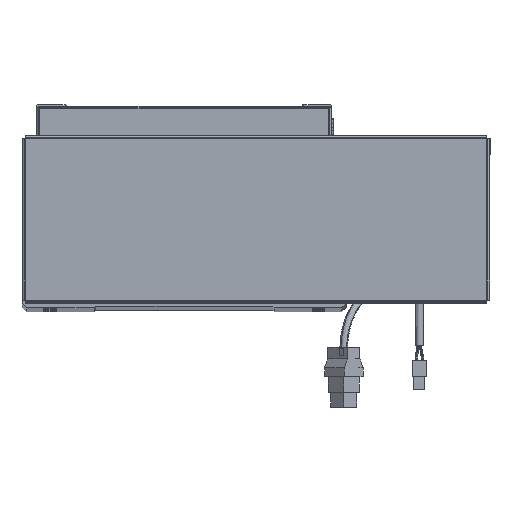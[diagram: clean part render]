
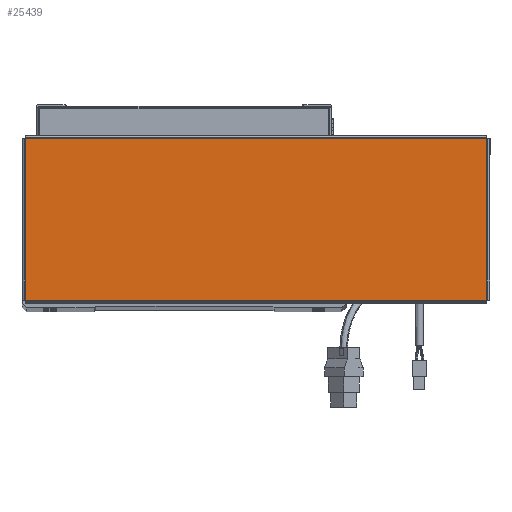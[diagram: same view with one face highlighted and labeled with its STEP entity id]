
A CAD part, top view. The second image highlights one B-rep face of the part: STEP entity #25439.
In plain terms, the highlighted planar face has unit normal (0, 0, 1).
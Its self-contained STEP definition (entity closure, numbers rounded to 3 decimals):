
#1410 = PLANE ( 'NONE',  #4073 ) ;
#2283 = VECTOR ( 'NONE', #10530, 1000. ) ;
#2304 = DIRECTION ( 'NONE',  ( 1., 0., 0. ) ) ;
#3856 = VERTEX_POINT ( 'NONE', #47092 ) ;
#4073 = AXIS2_PLACEMENT_3D ( 'NONE', #17397, #28608, #2304 ) ;
#4185 = CARTESIAN_POINT ( 'NONE',  ( 156.513, 54.763, 0. ) ) ;
#7198 = EDGE_CURVE ( 'NONE', #3856, #60975, #19256, .T. ) ;
#10291 = CARTESIAN_POINT ( 'NONE',  ( -156.513, 54.763, 0. ) ) ;
#10530 = DIRECTION ( 'NONE',  ( 0., 1., 0. ) ) ;
#10816 = CARTESIAN_POINT ( 'NONE',  ( -156.543, -54.763, 0. ) ) ;
#14713 = LINE ( 'NONE', #47503, #2283 ) ;
#17397 = CARTESIAN_POINT ( 'NONE',  ( 0., 0., 0. ) ) ;
#18936 = EDGE_CURVE ( 'NONE', #60975, #50657, #14713, .T. ) ;
#19256 = LINE ( 'NONE', #10816, #37374 ) ;
#19421 = EDGE_LOOP ( 'NONE', ( #52116, #37744, #53363, #64817 ) ) ;
#21043 = DIRECTION ( 'NONE',  ( -1., 0., 0. ) ) ;
#25439 = ADVANCED_FACE ( 'NONE', ( #44339 ), #1410, .T. ) ;
#27402 = VECTOR ( 'NONE', #21043, 1000. ) ;
#28608 = DIRECTION ( 'NONE',  ( 0., 0., 1. ) ) ;
#29170 = CARTESIAN_POINT ( 'NONE',  ( 156.513, -54.763, 0. ) ) ;
#31566 = DIRECTION ( 'NONE',  ( 1., 0., 0. ) ) ;
#37374 = VECTOR ( 'NONE', #31566, 1000. ) ;
#37744 = ORIENTED_EDGE ( 'NONE', *, *, #18936, .T. ) ;
#38150 = LINE ( 'NONE', #52745, #27402 ) ;
#44336 = CARTESIAN_POINT ( 'NONE',  ( -156.513, 54.793, 0. ) ) ;
#44339 = FACE_OUTER_BOUND ( 'NONE', #19421, .T. ) ;
#47092 = CARTESIAN_POINT ( 'NONE',  ( -156.513, -54.763, 0. ) ) ;
#47503 = CARTESIAN_POINT ( 'NONE',  ( 156.513, -54.793, 0. ) ) ;
#50657 = VERTEX_POINT ( 'NONE', #4185 ) ;
#52116 = ORIENTED_EDGE ( 'NONE', *, *, #7198, .T. ) ;
#52745 = CARTESIAN_POINT ( 'NONE',  ( 156.543, 54.763, 0. ) ) ;
#53075 = VERTEX_POINT ( 'NONE', #10291 ) ;
#53113 = LINE ( 'NONE', #44336, #53922 ) ;
#53363 = ORIENTED_EDGE ( 'NONE', *, *, #60156, .T. ) ;
#53922 = VECTOR ( 'NONE', #60781, 1000. ) ;
#60156 = EDGE_CURVE ( 'NONE', #50657, #53075, #38150, .T. ) ;
#60781 = DIRECTION ( 'NONE',  ( 0., -1., 0. ) ) ;
#60975 = VERTEX_POINT ( 'NONE', #29170 ) ;
#64817 = ORIENTED_EDGE ( 'NONE', *, *, #67042, .T. ) ;
#67042 = EDGE_CURVE ( 'NONE', #53075, #3856, #53113, .T. ) ;
